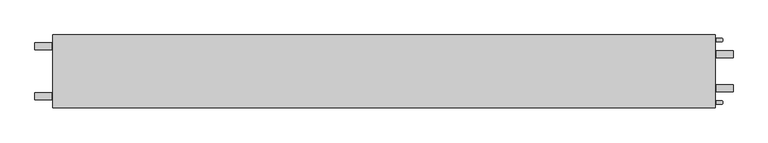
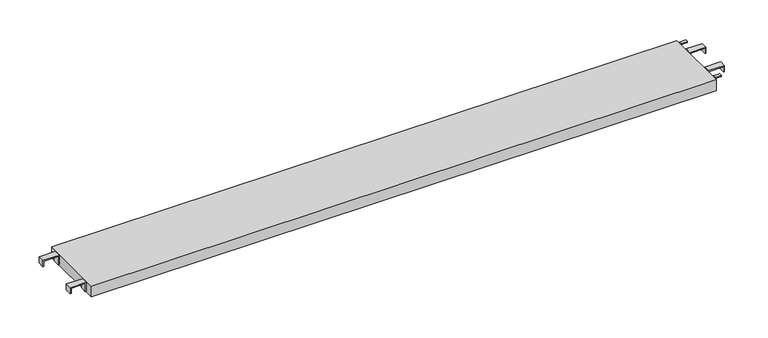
"""IFC4 building model written with IfcOpenShell, lengths in millimetres: proxy geometry, 05-Plateau 3.00 m : JPA Plateau Galva."""

from ifc_helpers import new_model, si_unit, frame, origin, place, context, project, spatial, circle_curve, faceted_brep, source, transform, mapped, element, save
from ifc_brep_helpers import plane_surface, cylinder_surface, advanced_brep


def generic_models_b6224320(model_context):
    return source(origin(), model_context, "Body", "SolidModel", [
        advanced_brep(
        [(2961.3967339, -57.0, -4.0), (2987.3967339, -57.0, -4.0), (2987.3967339, -57.0, 0.0), (2961.3967339, -57.0, 0.0), (2991.2652684, -54.0022292, -4.0), (2991.2652684, -54.0022292, 0.0), (2991.2652684, -44.9684354, -4.0), (2991.2652684, -44.9684354, 0.0), (2987.3967339, -42.0, -4.0), (2987.3967339, -42.0, 0.0), (2961.3967339, -42.0, -4.0), (2961.3967339, -42.0, 0.0)],
        [
            (0, 1),
            (1, 2),
            (2, 3),
            (3, 0),
            (1, 4, circle_curve(frame((2987.3967339, -53.005, -4.0), z_axis=(0.0, 0.0, 1.0), x_axis=(-0.9999999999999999, 0.0, 0.0)), 3.995)),
            (4, 5),
            (5, 2, circle_curve(frame((2987.3967339, -53.005, 0.0), z_axis=(0.0, 0.0, -1.0), x_axis=(-0.9999999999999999, 0.0, 0.0)), 3.995)),
            (4, 6),
            (6, 7),
            (7, 5),
            (6, 8, circle_curve(frame((2987.3967339, -46.005, -4.0), z_axis=(0.0, 0.0, 1.0), x_axis=(-1.0, 0.0, 0.0)), 4.005)),
            (8, 9),
            (9, 7, circle_curve(frame((2987.3967339, -46.005, 0.0), z_axis=(0.0, 0.0, -1.0), x_axis=(-1.0, 0.0, 0.0)), 4.005)),
            (8, 10),
            (10, 11),
            (11, 9),
            (10, 0),
            (3, 11),
        ],
        [
            plane_surface(frame((2961.3967339, -57.0, 0.0), z_axis=(0.0, -1.0, 0.0), x_axis=(0.0, 0.0, 1.0))),
            cylinder_surface(frame((2987.3967339, -53.005, 0.0), z_axis=(0.0, 0.0, -1.0), x_axis=(-0.9999999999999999, 0.0, 0.0)), 3.995),
            plane_surface(frame((2991.2652684, -54.0022292, 0.0), z_axis=(1.0, 0.0, 0.0), x_axis=(0.0, 0.0, 1.0))),
            cylinder_surface(frame((2987.3967339, -46.005, 0.0), z_axis=(0.0, 0.0, -1.0), x_axis=(-1.0, 0.0, 0.0)), 4.005),
            plane_surface(frame((2987.3967339, -42.0, 0.0), z_axis=(0.0, 1.0, 0.0), x_axis=(0.0, 0.0, -1.0))),
            plane_surface(frame((2961.3967339, -42.0, 0.0), z_axis=(-1.0, 0.0, 0.0), x_axis=(0.0, 0.0, -1.0))),
            plane_surface(frame((2975.7547598, -49.4996037, -4.0), z_axis=(0.0, 0.0, -1.0), x_axis=(-1.0, 0.0, 0.0))),
            plane_surface(frame((2975.7547598, -49.4996037, 0.0), z_axis=(0.0, 0.0, 1.0), x_axis=(-1.0, 0.0, 0.0))),
        ],
        [
            (0, [[1, 2, 3, 4]]),
            (1, [[5, 6, 7, -2]]),
            (2, [[8, 9, 10, -6]]),
            (3, [[11, 12, 13, -9]]),
            (4, [[14, 15, 16, -12]]),
            (5, [[17, -4, 18, -15]]),
            (6, [[-1, -17, -14, -11, -8, -5]]),
            (7, [[-18, -3, -7, -10, -13, -16]]),
        ],
    ),
        faceted_brep([(3032.3967339, -127.0, -4.0), (3032.3967339, -97.0, -4.0), (3032.3967339, -97.0, -30.0), (3032.3967339, -127.0, -30.0), (3036.3967339, -97.0, -30.0), (3036.3967339, -127.0, -30.0), (3036.3967339, -97.0, 0.0), (2961.3967339, -97.0, 0.0), (2961.3967339, -127.0, 0.0), (3036.3967339, -127.0, 0.0), (2965.3967339, -97.0, -4.0), (2965.3967339, -97.0, -45.0), (2961.3967339, -97.0, -45.0), (2965.3967339, -127.0, -4.0), (2961.3967339, -127.0, -45.0), (2965.3967339, -127.0, -45.0)], [[[0, 1, 2, 3]], [[3, 2, 4, 5]], [[6, 7, 8, 9]], [[1, 10, 11, 12, 7, 6, 4, 2]], [[1, 0, 13, 10]], [[4, 6, 9, 5]], [[9, 8, 14, 15, 13, 0, 3, 5]], [[7, 12, 14, 8]], [[11, 15, 14, 12]], [[10, 13, 15, 11]]]),
        faceted_brep([(3032.3967339, -277.0, -4.0), (3032.3967339, -247.0, -4.0), (3032.3967339, -247.0, -30.0), (3032.3967339, -277.0, -30.0), (3036.3967339, -247.0, -30.0), (3036.3967339, -277.0, -30.0), (3036.3967339, -247.0, 0.0), (2961.3967339, -247.0, 0.0), (2961.3967339, -277.0, 0.0), (3036.3967339, -277.0, 0.0), (2965.3967339, -247.0, -4.0), (2965.3967339, -247.0, -45.0), (2961.3967339, -247.0, -45.0), (2965.3967339, -277.0, -4.0), (2961.3967339, -277.0, -45.0), (2965.3967339, -277.0, -45.0)], [[[0, 1, 2, 3]], [[3, 2, 4, 5]], [[6, 7, 8, 9]], [[1, 10, 11, 12, 7, 6, 4, 2]], [[1, 0, 13, 10]], [[4, 6, 9, 5]], [[9, 8, 14, 15, 13, 0, 3, 5]], [[7, 12, 14, 8]], [[11, 15, 14, 12]], [[10, 13, 15, 11]]]),
        faceted_brep([(2927.3967339, -42.5, -3.0), (2927.3967339, -331.5, -3.0), (73.3967339, -331.5, -3.0), (73.3967339, -42.5, -3.0), (43.3967339, -27.0, 0.0), (43.3967339, -347.0, 0.0), (2957.3967339, -347.0, 0.0), (2957.3967339, -27.0, 0.0), (2927.3967339, -42.5, -53.0), (2927.3967339, -331.5, -53.0), (73.3967339, -331.5, -53.0), (2957.3967339, -27.0, -53.0), (43.3967339, -27.0, -53.0), (2957.3967339, -347.0, -53.0), (73.3967339, -42.5, -53.0), (43.3967339, -347.0, -53.0)], [[[0, 1, 2, 3]], [[4, 5, 6, 7]], [[8, 9, 1, 0]], [[1, 9, 10, 2]], [[7, 11, 12, 4]], [[13, 11, 7, 6]], [[8, 0, 3, 14]], [[10, 14, 3, 2]], [[11, 13, 15, 12], [8, 14, 10, 9]], [[5, 15, 13, 6]], [[12, 15, 5, 4]]]),
        faceted_brep([(-31.6032661, -282.0, -30.0), (-31.6032661, -312.0, -30.0), (-35.6032661, -312.0, -30.0), (-35.6032661, -282.0, -30.0), (-31.6032661, -282.0, -4.0), (-31.6032661, -312.0, -4.0), (35.3967339, -312.0, -4.0), (35.3967339, -312.0, -45.0), (39.3967339, -312.0, -45.0), (39.3967339, -312.0, 0.0), (-35.6032661, -312.0, 0.0), (35.3967339, -282.0, -4.0), (-35.6032661, -282.0, 0.0), (35.3967339, -282.0, -45.0), (39.3967339, -282.0, 0.0), (39.3967339, -282.0, -45.0)], [[[0, 1, 2, 3]], [[4, 5, 1, 0]], [[5, 6, 7, 8, 9, 10, 2, 1]], [[5, 4, 11, 6]], [[12, 3, 2, 10]], [[6, 11, 13, 7]], [[12, 14, 15, 13, 11, 4, 0, 3]], [[7, 13, 15, 8]], [[10, 9, 14, 12]], [[9, 8, 15, 14]]]),
        faceted_brep([(-31.6032661, -62.0, -30.0), (-31.6032661, -92.0, -30.0), (-35.6032661, -92.0, -30.0), (-35.6032661, -62.0, -30.0), (-31.6032661, -62.0, -4.0), (-31.6032661, -92.0, -4.0), (35.3967339, -92.0, -4.0), (35.3967339, -92.0, -45.0), (39.3967339, -92.0, -45.0), (39.3967339, -92.0, 0.0), (-35.6032661, -92.0, 0.0), (35.3967339, -62.0, -4.0), (-35.6032661, -62.0, 0.0), (35.3967339, -62.0, -45.0), (39.3967339, -62.0, 0.0), (39.3967339, -62.0, -45.0)], [[[0, 1, 2, 3]], [[4, 5, 1, 0]], [[5, 6, 7, 8, 9, 10, 2, 1]], [[5, 4, 11, 6]], [[12, 3, 2, 10]], [[6, 11, 13, 7]], [[12, 14, 15, 13, 11, 4, 0, 3]], [[7, 13, 15, 8]], [[10, 9, 14, 12]], [[9, 8, 15, 14]]]),
        advanced_brep(
        [(2961.3967339, -332.0, -4.0), (2987.3967339, -332.0, -4.0), (2987.3967339, -332.0, 0.0), (2961.3967339, -332.0, 0.0), (2991.2652684, -329.0022292, -4.0), (2991.2652684, -329.0022292, 0.0), (2991.2652684, -319.9684354, -4.0), (2991.2652684, -319.9684354, 0.0), (2987.3967339, -317.0, -4.0), (2987.3967339, -317.0, 0.0), (2961.3967339, -317.0, -4.0), (2961.3967339, -317.0, 0.0)],
        [
            (0, 1),
            (1, 2),
            (2, 3),
            (3, 0),
            (1, 4, circle_curve(frame((2987.3967339, -328.005, -4.0), z_axis=(0.0, 0.0, 1.0), x_axis=(-0.9999999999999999, 0.0, 0.0)), 3.995)),
            (4, 5),
            (5, 2, circle_curve(frame((2987.3967339, -328.005, 0.0), z_axis=(0.0, 0.0, -1.0), x_axis=(-0.9999999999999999, 0.0, 0.0)), 3.995)),
            (4, 6),
            (6, 7),
            (7, 5),
            (6, 8, circle_curve(frame((2987.3967339, -321.005, -4.0), z_axis=(0.0, 0.0, 1.0), x_axis=(-1.0, 0.0, 0.0)), 4.005)),
            (8, 9),
            (9, 7, circle_curve(frame((2987.3967339, -321.005, 0.0), z_axis=(0.0, 0.0, -1.0), x_axis=(-1.0, 0.0, 0.0)), 4.005)),
            (8, 10),
            (10, 11),
            (11, 9),
            (10, 0),
            (3, 11),
        ],
        [
            plane_surface(frame((2961.3967339, -332.0, 0.0), z_axis=(0.0, -1.0, 0.0), x_axis=(0.0, 0.0, 1.0))),
            cylinder_surface(frame((2987.3967339, -328.005, 0.0), z_axis=(0.0, 0.0, -1.0), x_axis=(-0.9999999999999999, 0.0, 0.0)), 3.995),
            plane_surface(frame((2991.2652684, -329.0022292, 0.0), z_axis=(1.0, 0.0, 0.0), x_axis=(0.0, 0.0, 1.0))),
            cylinder_surface(frame((2987.3967339, -321.005, 0.0), z_axis=(0.0, 0.0, -1.0), x_axis=(-1.0, 0.0, 0.0)), 4.005),
            plane_surface(frame((2987.3967339, -317.0, 0.0), z_axis=(0.0, 1.0, 0.0), x_axis=(0.0, 0.0, -1.0))),
            plane_surface(frame((2961.3967339, -317.0, 0.0), z_axis=(-1.0, 0.0, 0.0), x_axis=(0.0, 0.0, -1.0))),
            plane_surface(frame((2975.7547598, -324.4996037, -4.0), z_axis=(0.0, 0.0, -1.0), x_axis=(-1.0, 0.0, 0.0))),
            plane_surface(frame((2975.7547598, -324.4996037, 0.0), z_axis=(0.0, 0.0, 1.0), x_axis=(-1.0, 0.0, 0.0))),
        ],
        [
            (0, [[1, 2, 3, 4]]),
            (1, [[5, 6, 7, -2]]),
            (2, [[8, 9, 10, -6]]),
            (3, [[11, 12, 13, -9]]),
            (4, [[14, 15, 16, -12]]),
            (5, [[17, -4, 18, -15]]),
            (6, [[-1, -17, -14, -11, -8, -5]]),
            (7, [[-18, -3, -7, -10, -13, -16]]),
        ],
    ),
    ])


if __name__ == "__main__":
    model = new_model("IFC4")
    model_context = context("Model", 3, world=origin())
    ifc_project = project(units=[si_unit("LENGTHUNIT", "METRE", prefix="MILLI")], contexts=[model_context])
    site = spatial("IfcSite", under=ifc_project)
    building = spatial("IfcBuilding", under=site)
    placement = place(None, origin())
    generic_models_shape = generic_models_b6224320(model_context)
    element("IfcBuildingElementProxy", 1, Name="05-Plateau 3.00 m : JPA Plateau Galva", ObjectType="05-Plateau 3.00 m : JPA Plateau Galva", at=placement, inside=building, context=model_context, shape_type="MappedRepresentation", body=[
        mapped(generic_models_shape, transform((0.0, 0.0, 0.0), x_axis=(1.0, 0.0, 0.0), y_axis=(0.0, 1.0, 0.0), z_axis=(0.0, 0.0, 1.0))),
    ])
    save(model, "model.ifc")
